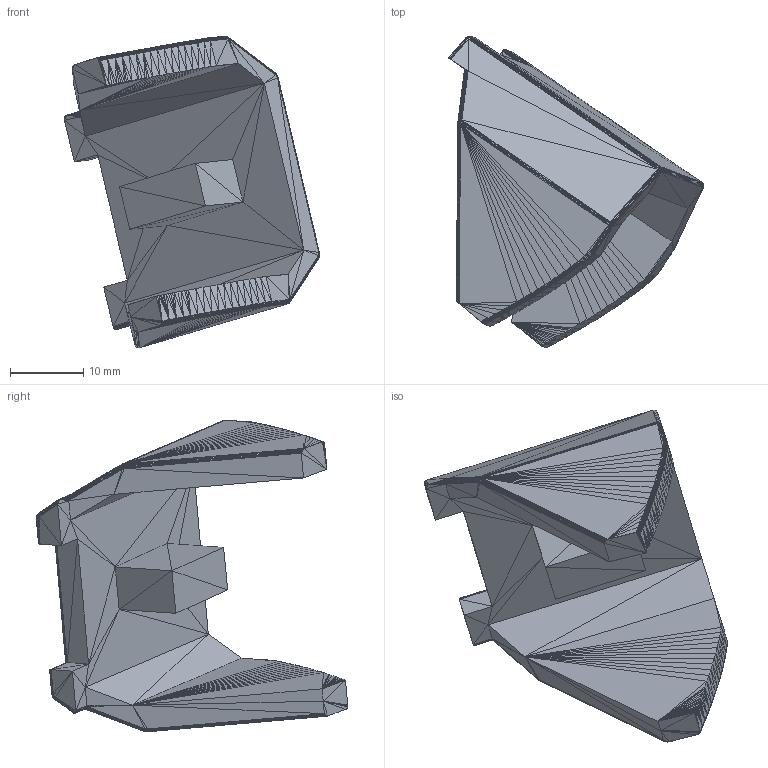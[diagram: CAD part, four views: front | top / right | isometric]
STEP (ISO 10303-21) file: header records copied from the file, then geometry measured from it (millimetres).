
FILE_DESCRIPTION((''),'2;1');
FILE_NAME('Thumb K1', '2025-03-27T08:07:30', (''), (''), 'ImageToStl.com STEP Converter','', '');
FILE_SCHEMA(('AUTOMOTIVE_DESIGN_CC2'));
Length unit declared in the file: metre
Products named in the file (1): product0
Bounding box: 34.83 x 42.49 x 42.5 mm (x, y, z)
Surface area: 5075.8 mm2 (no closed solid volume)
Topology: 0 solids, 4350 shells, 4350 faces, 13050 edges, 2177 vertices
Faces by surface type: plane 4350
Entity records: 104439 total; most frequent: DIRECTION 21752, ORIENTED_EDGE 13050, EDGE_CURVE 13050, LINE 13050, VECTOR 13050, AXIS2_PLACEMENT_3D 4351, STYLED_ITEM 4351, FACE_SURFACE 4350
